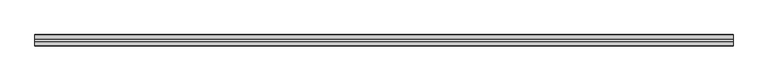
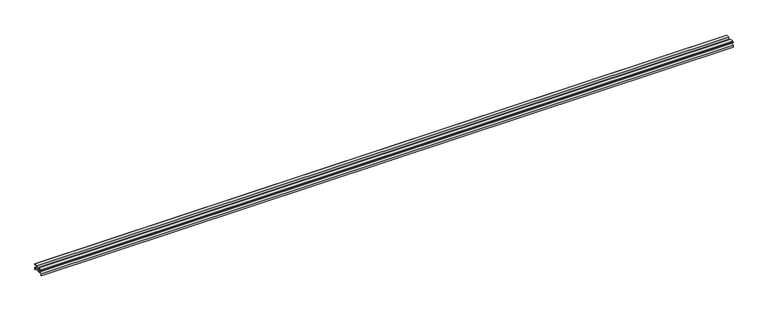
"""IFC4 building model written with IfcOpenShell, lengths in millimetres: proxy geometry, Weiku - Montante - Acoplamento vidro : Weiku - Montante - Acoplamento vidro."""

from ifc_helpers import new_model, si_unit, frame, origin, place, context, project, spatial, polyline, outline, extrude, source, transform, mapped, element, save


def generic_models_f195bc83(model_context):
    return source(origin(), model_context, "Body", "SweptSolid", [
        extrude(outline(polyline([(-35.405, 5.1494), (-35.405, 6.8004), (-45.741, 6.8004), (-45.741, 2.6094), (-43.8784, 2.6094), (-43.8784, 0.0), (-47.9014508, 0.0), (-47.9014508, 8.79), (-34.946, 8.79), (-34.946, 23.3104), (-43.5397, 23.3104), (-43.5397, 19.204), (-47.9, 19.204), (-47.9, 22.8024), (-46.9264, 22.8024), (-46.9264, 20.3894), (-44.725, 20.3894), (-44.725, 23.9454), (-45.5264504, 23.9454), (-45.5264504, 25.3), (-30.4164, 25.3), (-30.4164, 16.283), (-32.4484, 16.283), (-32.4484, 8.8), (-15.4516, 8.8), (-15.4516, 16.283), (-17.4836, 16.283), (-17.4836, 25.3), (-2.3735496, 25.3), (-2.3735496, 23.9454), (-3.175, 23.9454), (-3.175, 20.3894), (-0.9736, 20.3894), (-0.9736, 22.8024), (0.0, 22.8024), (0.0, 19.204), (-4.3603, 19.204), (-4.3603, 23.3104), (-12.954, 23.3104), (-12.954, 8.79), (0.0014508, 8.79), (0.0014508, 0.0), (-4.0216, 0.0), (-4.0216, 2.6094), (-2.159, 2.6094), (-2.159, 6.8004), (-12.495, 6.8004), (-12.495, 5.1494), (-35.405, 5.1494)])), frame((-1454.9, 0.0, 0.0), z_axis=(1.0, 0.0, 0.0), x_axis=(0.0, 1.0, 0.0)), (0.0, 0.0, 1.0), 2909.8),
    ])


if __name__ == "__main__":
    model = new_model("IFC4")
    model_context = context("Model", 3, world=origin())
    ifc_project = project(units=[si_unit("LENGTHUNIT", "METRE", prefix="MILLI")], contexts=[model_context])
    site = spatial("IfcSite", under=ifc_project)
    building = spatial("IfcBuilding", under=site)
    placement = place(None, origin())
    generic_models_shape = generic_models_f195bc83(model_context)
    element("IfcBuildingElementProxy", 1, Name="Weiku - Montante - Acoplamento vidro : Weiku - Montante - Acoplamento vidro", ObjectType="Weiku - Montante - Acoplamento vidro : Weiku - Montante - Acoplamento vidro", at=placement, inside=building, context=model_context, shape_type="MappedRepresentation", body=[
        mapped(generic_models_shape, transform((0.0, 0.0, 0.0), x_axis=(1.0, 0.0, 0.0), y_axis=(0.0, 1.0, 0.0), z_axis=(0.0, 0.0, 1.0))),
    ])
    save(model, "model.ifc")
